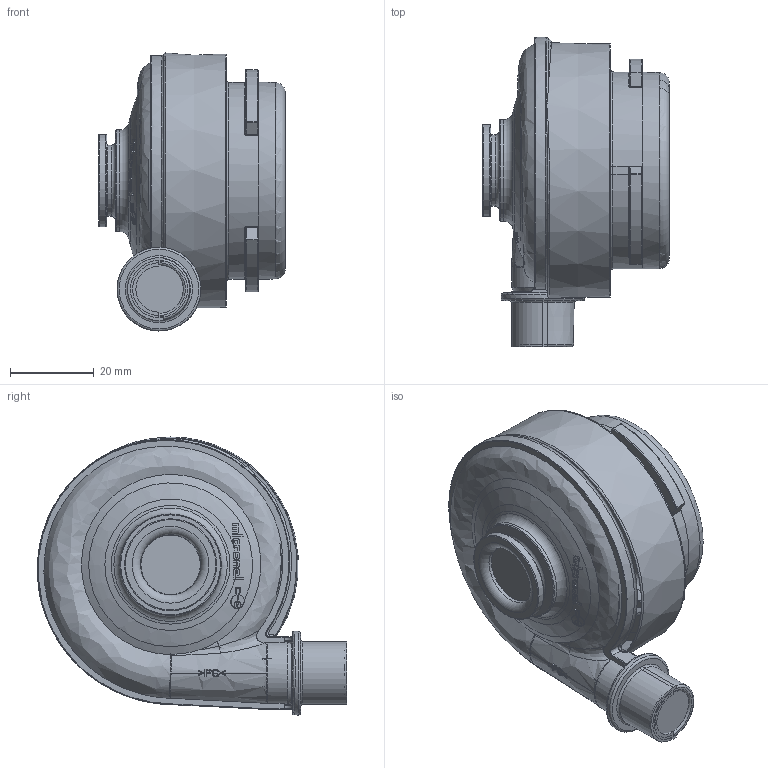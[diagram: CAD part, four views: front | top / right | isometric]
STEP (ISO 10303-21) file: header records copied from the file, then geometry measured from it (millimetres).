
FILE_DESCRIPTION(/* description */ (''),/* implementation_level */ '2;1');
FILE_NAME(/* name */ 'U65MN-024KS-5_Simple.stp',/* time_stamp */ '2019-12-10T13:42:10+01:00',/* author */ (''),/* organization */ (''),/* preprocessor_version */ 'ST-DEVELOPER v16',/* originating_system */ 'SIEMENS PLM Software NX 11.0',/* authorisation */ '');
FILE_SCHEMA (('AUTOMOTIVE_DESIGN { 1 0 10303 214 3 1 1 1 }'));
Length unit declared in the file: millimetre
Products named in the file (1): model1
Bounding box: 44.57 x 73.78 x 66.34 mm (x, y, z)
Volume: 96073.4 mm3; surface area: 15729.9 mm2
Topology: 3 solids, 9 shells, 501 faces, 1277 edges, 792 vertices
Faces by surface type: plane 189, bspline 113, cylinder 86, torus 47, extrusion 26, cone 22, sphere 16, revolution 2
Full cylindrical faces by diameter (mm): 16.967 x1, 20 x1, 21.966 x1, 24.23 x1, 60.487 x1
Entity records: 25494 total; most frequent: CARTESIAN_POINT 11749, ORIENTED_EDGE 2426, DIRECTION 1633, EDGE_CURVE 1213, VERTEX_POINT 774, AXIS2_PLACEMENT_3D 620, B_SPLINE_CURVE_WITH_KNOTS 596, EDGE_LOOP 545
